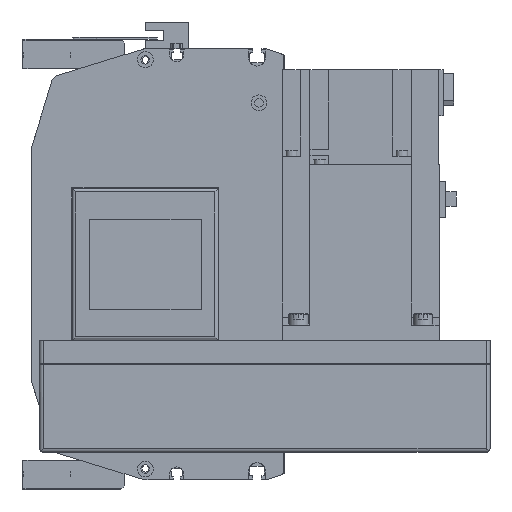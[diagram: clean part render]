
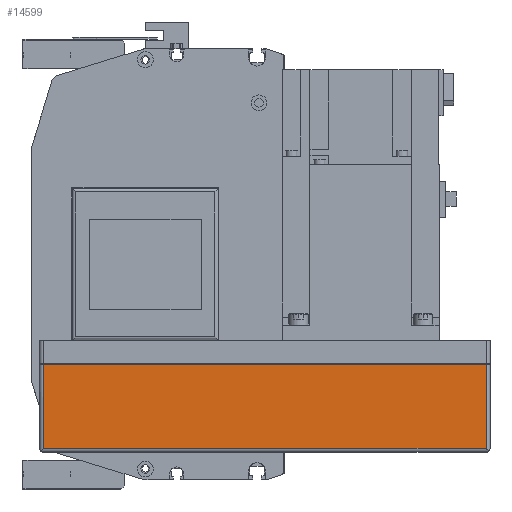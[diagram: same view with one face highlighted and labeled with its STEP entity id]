
A CAD part, left-side view. The second image highlights one B-rep face of the part: STEP entity #14599.
In plain terms, the highlighted planar face has unit normal (-1, 0, 0) as drawn and (0, 1, 0) by its records, which use the part's own axes.
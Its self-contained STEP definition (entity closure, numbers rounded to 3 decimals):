
#2484=ORIENTED_EDGE('',*,*,#5950,.F.);
#2485=ORIENTED_EDGE('',*,*,#5890,.T.);
#2486=ORIENTED_EDGE('',*,*,#5951,.F.);
#2487=ORIENTED_EDGE('',*,*,#5885,.F.);
#5885=EDGE_CURVE('',#7764,#7765,#9274,.T.);
#5890=EDGE_CURVE('',#7770,#7769,#9276,.T.);
#5950=EDGE_CURVE('',#7770,#7764,#9319,.T.);
#5951=EDGE_CURVE('',#7765,#7769,#9320,.T.);
#7764=VERTEX_POINT('',#22715);
#7765=VERTEX_POINT('',#22717);
#7769=VERTEX_POINT('',#22726);
#7770=VERTEX_POINT('',#22728);
#9274=LINE('',#22716,#10621);
#9276=LINE('',#22727,#10623);
#9319=LINE('',#22850,#10666);
#9320=LINE('',#22851,#10667);
#10621=VECTOR('',#18146,1000.);
#10623=VECTOR('',#18156,1000.);
#10666=VECTOR('',#18277,1000.);
#10667=VECTOR('',#18278,1000.);
#11822=EDGE_LOOP('',(#2484,#2485,#2486,#2487));
#12977=FACE_BOUND('',#11822,.T.);
#13970=PLANE('',#15675);
#14599=ADVANCED_FACE('',(#12977),#13970,.T.);
#15675=AXIS2_PLACEMENT_3D('',#22849,#18275,#18276);
#18146=DIRECTION('',(0.,0.,1.));
#18156=DIRECTION('',(0.,0.,1.));
#18275=DIRECTION('',(0.,1.,0.));
#18276=DIRECTION('',(0.,0.,1.));
#18277=DIRECTION('',(1.,0.,0.));
#18278=DIRECTION('',(-1.,0.,0.));
#22715=CARTESIAN_POINT('',(-2.,54.,-55.));
#22716=CARTESIAN_POINT('',(-2.,54.,-57.));
#22717=CARTESIAN_POINT('',(-2.,54.,-12.));
#22726=CARTESIAN_POINT('',(-228.,54.,-12.));
#22727=CARTESIAN_POINT('',(-228.,54.,-57.));
#22728=CARTESIAN_POINT('',(-228.,54.,-55.));
#22849=CARTESIAN_POINT('',(-2.,54.,-57.));
#22850=CARTESIAN_POINT('',(-230.,54.,-55.));
#22851=CARTESIAN_POINT('',(-2.,54.,-12.));
